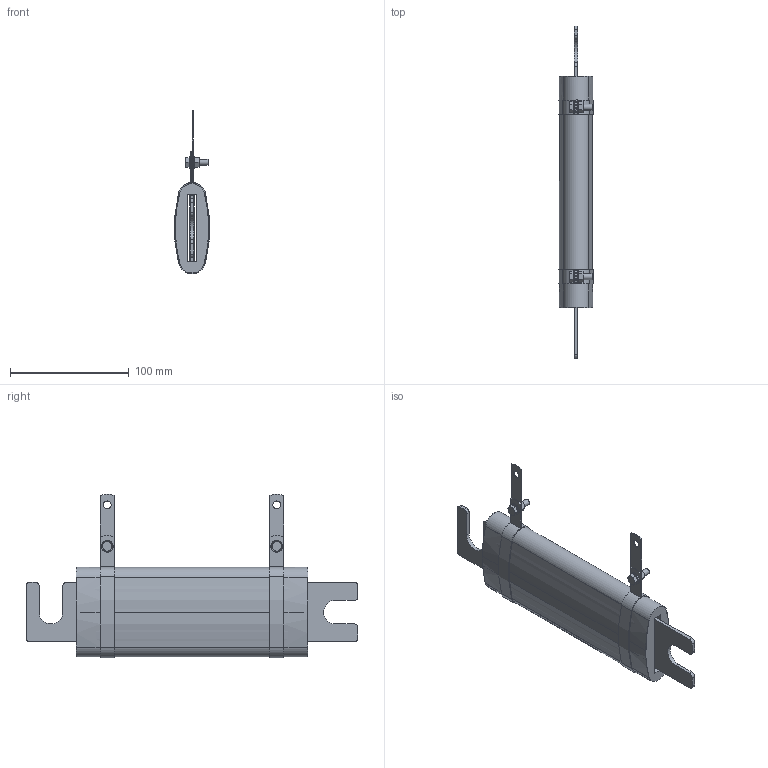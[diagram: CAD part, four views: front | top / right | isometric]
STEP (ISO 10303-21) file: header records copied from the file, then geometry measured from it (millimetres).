
FILE_DESCRIPTION(/* description */ (''),/* implementation_level */ '2;1');
FILE_NAME(/* name */ 'C:\_Vault\Dati\CATALOGO\RCE\RCE 300-1800\CE0500.stp',/* time_stamp */ '2014-01-22T16:08:26+01:00',/* author */ ('stefano'),/* organization */ (''),/* preprocessor_version */ 'ST-DEVELOPER v15.2',/* originating_system */ 'Autodesk Inventor 2014',/* authorisation */ '');
FILE_SCHEMA (('AUTOMOTIVE_DESIGN { 1 0 10303 214 3 1 1 }'));
Length unit declared in the file: millimetre
Products named in the file (1): CE0500
Bounding box: 29.17 x 280 x 137.95 mm (x, y, z)
Volume: 309689.5 mm3; surface area: 137068 mm2
Topology: 5 solids, 7 shells, 262 faces, 648 edges, 424 vertices
Faces by surface type: plane 140, cylinder 102, cone 20
Full cylindrical faces by diameter (mm): 3 x2, 5 x4, 5.3 x4, 6.5 x6, 6.88 x2, 10 x4
Entity records: 7951 total; most frequent: CARTESIAN_POINT 1393, DIRECTION 1344, ORIENTED_EDGE 1256, EDGE_CURVE 616, AXIS2_PLACEMENT_3D 513, VERTEX_POINT 418, EDGE_LOOP 336, LINE 318
